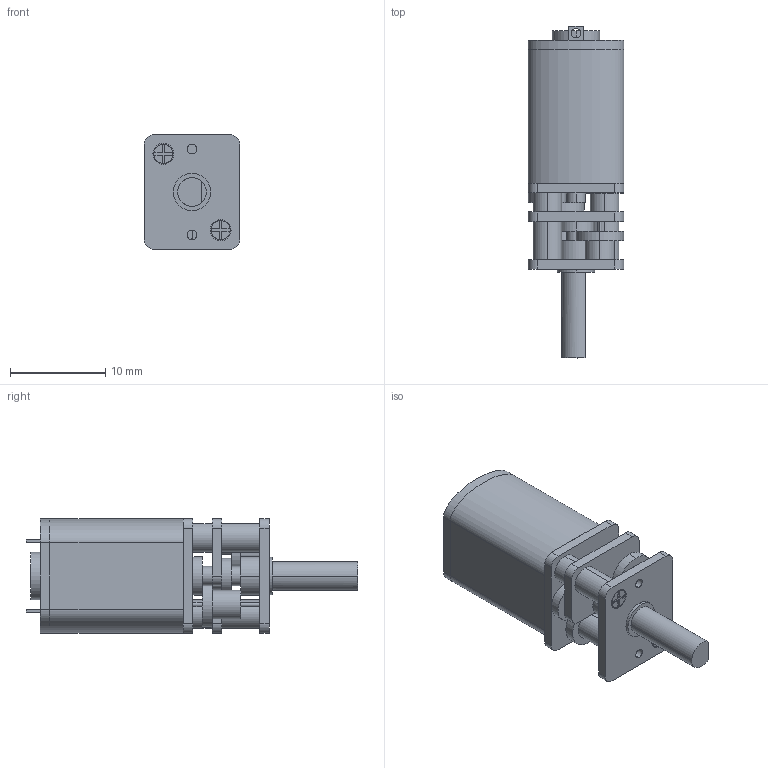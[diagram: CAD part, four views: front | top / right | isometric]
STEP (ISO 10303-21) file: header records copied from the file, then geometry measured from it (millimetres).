
FILE_DESCRIPTION (( 'STEP AP203' ), '1' );
FILE_NAME ('N20 Motor (ACP).STEP', '2020-05-02T05:29:01', ( '' ), ( '' ), 'SwSTEP 2.0', 'SolidWorks 2019', '' );
FILE_SCHEMA (( 'CONFIG_CONTROL_DESIGN' ));
Length unit declared in the file: millimetre
Products named in the file (1): N20 Motor (ACP)
Bounding box: 10 x 34.8 x 12 mm (x, y, z)
Volume: 2265.5 mm3; surface area: 2357.6 mm2
Topology: 17 solids, 17 shells, 179 faces, 396 edges, 264 vertices
Faces by surface type: plane 99, cylinder 76, bspline 4
Entity records: 5089 total; most frequent: DIRECTION 910, CARTESIAN_POINT 892, ORIENTED_EDGE 792, EDGE_CURVE 396, AXIS2_PLACEMENT_3D 346, VERTEX_POINT 264, VECTOR 218, LINE 218
